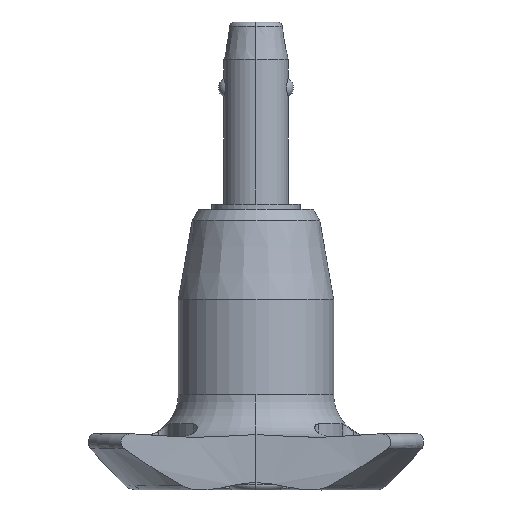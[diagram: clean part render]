
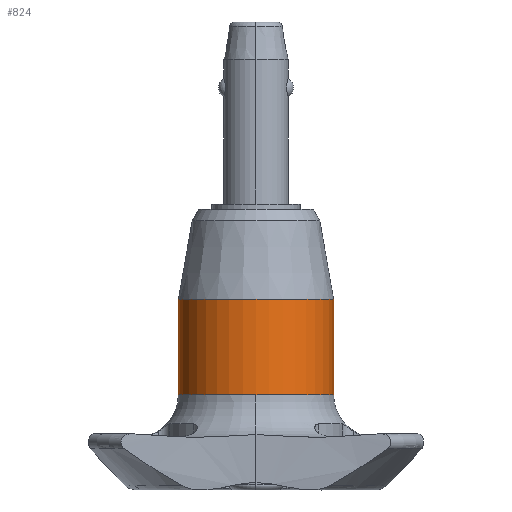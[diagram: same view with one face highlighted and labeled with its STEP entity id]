
A CAD part, left-side view. The second image highlights one B-rep face of the part: STEP entity #824.
In plain terms, the highlighted cylindrical face has radius 7.25 mm (diameter 14.5 mm), a partial arc.
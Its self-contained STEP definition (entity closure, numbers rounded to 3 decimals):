
#3 = VERTEX_POINT ( 'NONE', #219 ) ;
#41 = AXIS2_PLACEMENT_3D ( 'NONE', #1891, #2052, #2068 ) ;
#103 = CARTESIAN_POINT ( 'NONE',  ( 0., 7.25, -27.8 ) ) ;
#136 = CARTESIAN_POINT ( 'NONE',  ( 0., 0., -18.9 ) ) ;
#188 = ORIENTED_EDGE ( 'NONE', *, *, #1903, .F. ) ;
#219 = CARTESIAN_POINT ( 'NONE',  ( 0., -7.25, -18.9 ) ) ;
#261 = DIRECTION ( 'NONE',  ( 0., 0., -1. ) ) ;
#296 = DIRECTION ( 'NONE',  ( 0., 0., -1. ) ) ;
#405 = EDGE_CURVE ( 'NONE', #3, #1610, #1836, .T. ) ;
#422 = AXIS2_PLACEMENT_3D ( 'NONE', #136, #1395, #1827 ) ;
#503 = ORIENTED_EDGE ( 'NONE', *, *, #2566, .T. ) ;
#742 = CARTESIAN_POINT ( 'NONE',  ( 0., 7.25, -18.9 ) ) ;
#824 = ADVANCED_FACE ( 'NONE', ( #1257 ), #1720, .T. ) ;
#906 = LINE ( 'NONE', #2356, #1621 ) ;
#929 = AXIS2_PLACEMENT_3D ( 'NONE', #1528, #296, #1543 ) ;
#1257 = FACE_OUTER_BOUND ( 'NONE', #1882, .T. ) ;
#1313 = CIRCLE ( 'NONE', #41, 7.25 ) ;
#1395 = DIRECTION ( 'NONE',  ( 0., 0., -1. ) ) ;
#1406 = VECTOR ( 'NONE', #1773, 1000. ) ;
#1462 = CARTESIAN_POINT ( 'NONE',  ( 0., 0., -27.8 ) ) ;
#1472 = VERTEX_POINT ( 'NONE', #2165 ) ;
#1528 = CARTESIAN_POINT ( 'NONE',  ( 0., 0., -27.8 ) ) ;
#1543 = DIRECTION ( 'NONE',  ( 0., 1., 0. ) ) ;
#1610 = VERTEX_POINT ( 'NONE', #742 ) ;
#1621 = VECTOR ( 'NONE', #261, 1000. ) ;
#1644 = ORIENTED_EDGE ( 'NONE', *, *, #405, .T. ) ;
#1717 = VERTEX_POINT ( 'NONE', #2518 ) ;
#1720 = CYLINDRICAL_SURFACE ( 'NONE', #2190, 7.25 ) ;
#1732 = LINE ( 'NONE', #103, #1406 ) ;
#1758 = EDGE_CURVE ( 'NONE', #1770, #1717, #1313, .T. ) ;
#1764 = CIRCLE ( 'NONE', #929, 7.25 ) ;
#1770 = VERTEX_POINT ( 'NONE', #1860 ) ;
#1773 = DIRECTION ( 'NONE',  ( 0., 0., -1. ) ) ;
#1827 = DIRECTION ( 'NONE',  ( 0., 1., 0. ) ) ;
#1836 = CIRCLE ( 'NONE', #422, 7.25 ) ;
#1860 = CARTESIAN_POINT ( 'NONE',  ( 0., -7.25, -27.8 ) ) ;
#1882 = EDGE_LOOP ( 'NONE', ( #188, #1644, #503, #2103, #2404 ) ) ;
#1891 = CARTESIAN_POINT ( 'NONE',  ( 0., 0., -27.8 ) ) ;
#1903 = EDGE_CURVE ( 'NONE', #3, #1770, #906, .T. ) ;
#2052 = DIRECTION ( 'NONE',  ( 0., 0., -1. ) ) ;
#2068 = DIRECTION ( 'NONE',  ( 0., 1., 0. ) ) ;
#2101 = DIRECTION ( 'NONE',  ( 0., 0., -1. ) ) ;
#2103 = ORIENTED_EDGE ( 'NONE', *, *, #2636, .F. ) ;
#2165 = CARTESIAN_POINT ( 'NONE',  ( 0., 7.25, -27.8 ) ) ;
#2190 = AXIS2_PLACEMENT_3D ( 'NONE', #1462, #2101, #2529 ) ;
#2356 = CARTESIAN_POINT ( 'NONE',  ( 0., -7.25, -27.8 ) ) ;
#2404 = ORIENTED_EDGE ( 'NONE', *, *, #1758, .F. ) ;
#2518 = CARTESIAN_POINT ( 'NONE',  ( -7.25, 0., -27.8 ) ) ;
#2529 = DIRECTION ( 'NONE',  ( 0., 1., 0. ) ) ;
#2566 = EDGE_CURVE ( 'NONE', #1610, #1472, #1732, .T. ) ;
#2636 = EDGE_CURVE ( 'NONE', #1717, #1472, #1764, .T. ) ;
